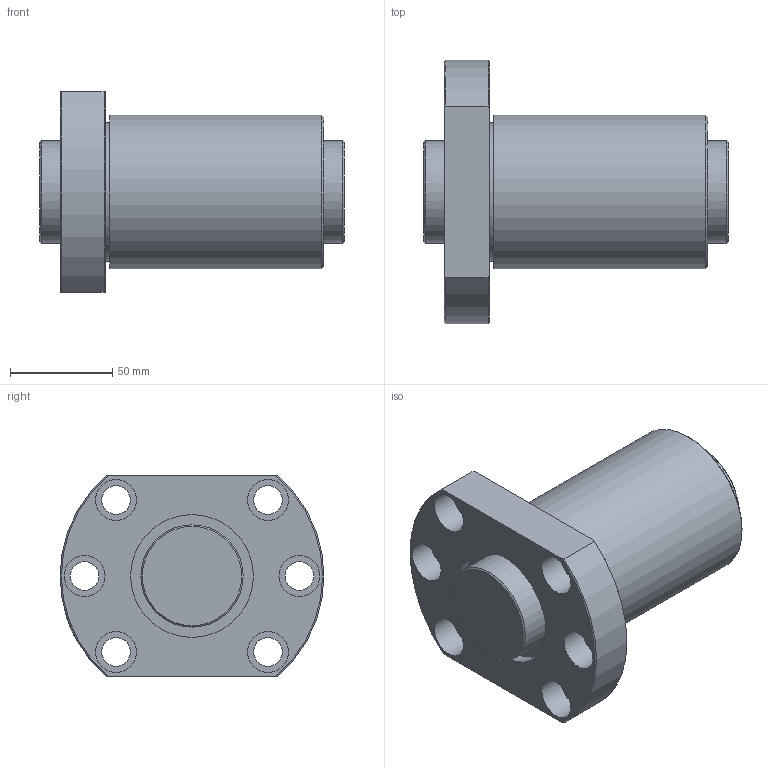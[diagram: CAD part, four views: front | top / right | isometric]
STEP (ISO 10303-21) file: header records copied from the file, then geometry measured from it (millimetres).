
FILE_DESCRIPTION(/* description */ ('STEP AP203'),/* implementation_level */ '2;1');
FILE_NAME(/* name */ 'DK5016-4RRG1+149LC0_000',/* time_stamp */ '2025-01-13T09:31:58+01:00',/* author */ ('License CC BY-ND 4.0'),/* organization */ ('CADENAS'),/* preprocessor_version */ 'ST-DEVELOPER v19.3',/* originating_system */ 'PARTsolutions',/* authorisation */ ' ');
FILE_SCHEMA (('CONFIG_CONTROL_DESIGN'));
Length unit declared in the file: millimetre
Products named in the file (3): DK5016-4RRG1+149LC0_000; DK 5016-4RR014900 Shaft; DK 5016-4RR0Nut
Assembly tree (2 placements, depth 2):
  DK5016-4RRG1+149LC0_000
    DK 5016-4RR014900 Shaft
    DK 5016-4RR0Nut
Bounding box: 149 x 129 x 98 mm (x, y, z)
Volume: 712867.3 mm3; surface area: 108014.9 mm2
Topology: 2 solids, 2 shells, 46 faces, 94 edges, 62 vertices
Faces by surface type: cylinder 21, plane 16, cone 9
Full cylindrical faces by diameter (mm): 8.566 x1, 14 x6, 20 x6, 50 x2, 60 x2, 67.5 x1, 75 x1
Entity records: 1222 total; most frequent: CARTESIAN_POINT 226, DIRECTION 204, ORIENTED_EDGE 134, AXIS2_PLACEMENT_3D 98, EDGE_LOOP 96, FACE_BOUND 96, EDGE_CURVE 67, VERTEX_POINT 59
